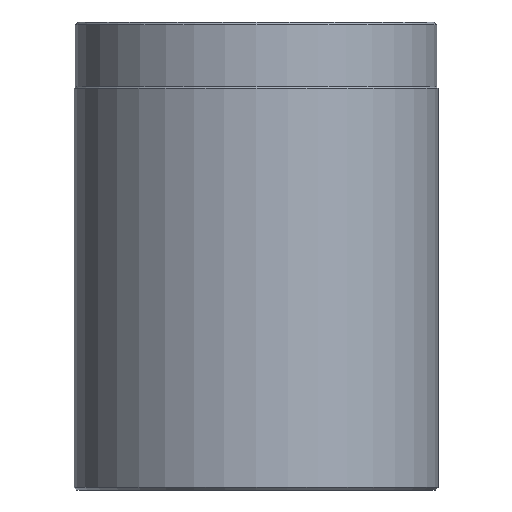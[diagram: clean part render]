
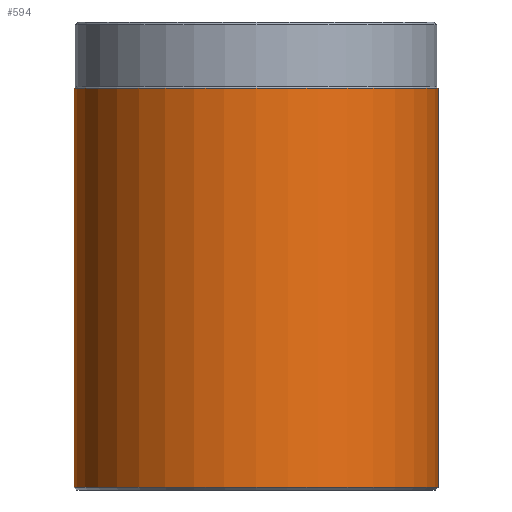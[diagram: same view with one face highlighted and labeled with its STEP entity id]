
A CAD part, front view. The second image highlights one B-rep face of the part: STEP entity #594.
In plain terms, the highlighted cylindrical face has radius 70 mm (diameter 140 mm), a partial arc.
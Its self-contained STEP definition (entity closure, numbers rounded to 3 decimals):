
#125=VERTEX_POINT(' ',#126);
#126=CARTESIAN_POINT('',(-70.,0.,1.));
#127=VERTEX_POINT(' ',#128);
#128=CARTESIAN_POINT('',(70.,0.,1.));
#129=VERTEX_POINT(' ',#130);
#130=CARTESIAN_POINT('',(-70.,0.,154.5));
#131=VERTEX_POINT(' ',#132);
#132=CARTESIAN_POINT('',(70.,0.,154.5));
#321=CIRCLE('',#322,70.);
#322=AXIS2_PLACEMENT_3D('',#323,#324,#325);
#323=CARTESIAN_POINT('',(0.,0.,1.));
#324=DIRECTION('',(0.,0.,1.));
#325=DIRECTION('',(0.,1.,0.));
#326=EDGE_CURVE(' ',#125,#127,#321,.T.);
#327=LINE('',#328,#329);
#328=CARTESIAN_POINT('',(-70.,0.,1.));
#329=VECTOR('',#330,1.);
#330=DIRECTION('',(0.,0.,1.));
#331=EDGE_CURVE(' ',#125,#129,#327,.T.);
#338=LINE('',#339,#340);
#339=CARTESIAN_POINT('',(70.,0.,1.));
#340=VECTOR('',#341,1.);
#341=DIRECTION('',(0.,0.,1.));
#342=EDGE_CURVE(' ',#127,#131,#338,.T.);
#343=CIRCLE('',#344,70.);
#344=AXIS2_PLACEMENT_3D('',#345,#346,#347);
#345=CARTESIAN_POINT('',(0.,0.,154.5));
#346=DIRECTION('',(0.,0.,1.));
#347=DIRECTION('',(0.,1.,0.));
#348=EDGE_CURVE(' ',#129,#131,#343,.T.);
#583=ORIENTED_EDGE('',*,*,#331,.F.);
#584=ORIENTED_EDGE('',*,*,#326,.T.);
#585=ORIENTED_EDGE('',*,*,#342,.T.);
#586=ORIENTED_EDGE('',*,*,#348,.F.);
#587=EDGE_LOOP('',(#583,#584,#585,#586));
#588=FACE_OUTER_BOUND('',#587,.T.);
#589=CYLINDRICAL_SURFACE('',#590,70.);
#590=AXIS2_PLACEMENT_3D('',#591,#592,#593);
#591=CARTESIAN_POINT('',(0.,0.,1.));
#592=DIRECTION('',(0.,0.,1.));
#593=DIRECTION('',(0.,1.,0.));
#594=ADVANCED_FACE('',(#588),#589,.T.);
